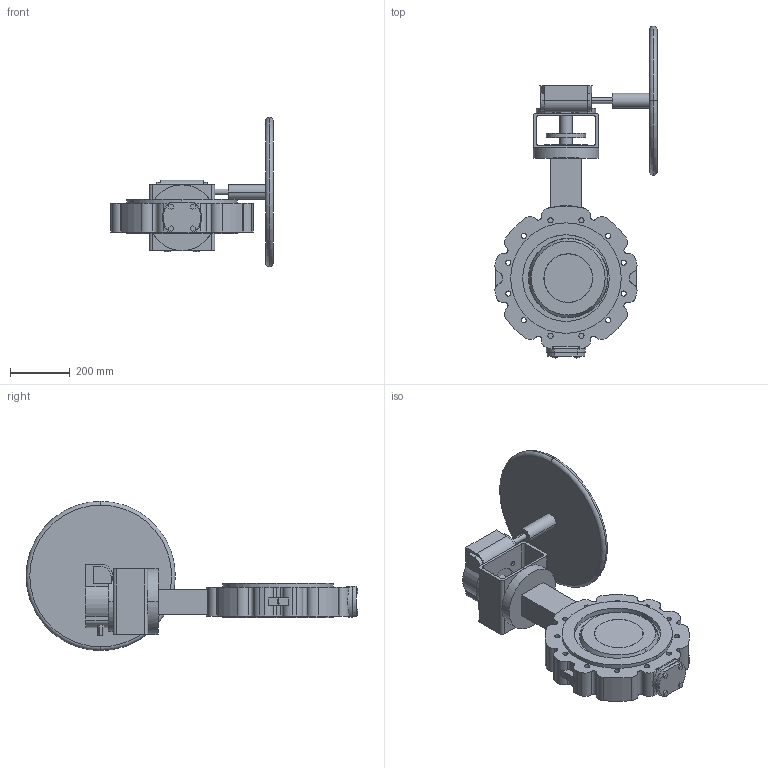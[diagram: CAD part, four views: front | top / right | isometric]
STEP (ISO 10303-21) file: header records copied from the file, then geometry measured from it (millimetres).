
FILE_DESCRIPTION( ( '' ), '1' );
FILE_NAME( 'F:/DE-SHS/TB/OR/04-Sonstiges/daten/Excel/mneugeba/018_ZETRIX-PN10_Getriebe-Rotork/c000006423.stp', '2016-09-19T06:21:18', ( '' ), ( '' ), ' ', ' ', ' ' );
FILE_SCHEMA( ( 'CONFIG_CONTROL_DESIGN' ) );
Length unit declared in the file: millimetre
Products named in the file (2): 1; 2
Bounding box: 542.85 x 1111.4 x 500 mm (x, y, z)
Volume: 26929052.5 mm3; surface area: 1748245.7 mm2
Topology: 2 solids, 2 shells, 344 faces, 915 edges, 609 vertices
Faces by surface type: cylinder 177, plane 155, sphere 4, cone 4, torus 4
Entity records: 11736 total; most frequent: CARTESIAN_POINT 2643, DIRECTION 1988, ORIENTED_EDGE 1830, EDGE_CURVE 915, AXIS2_PLACEMENT_3D 756, VERTEX_POINT 609, LINE 476, VECTOR 476
